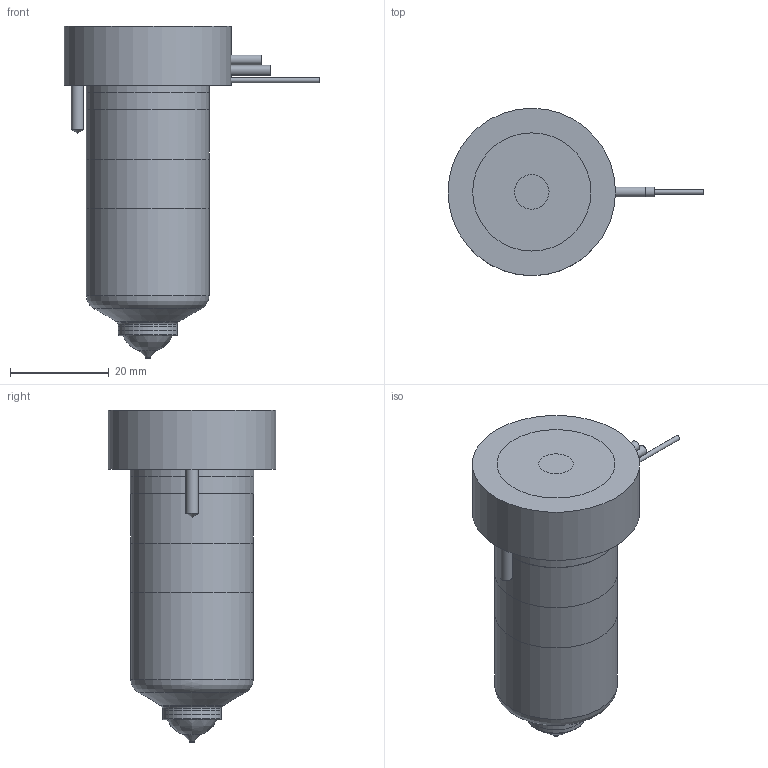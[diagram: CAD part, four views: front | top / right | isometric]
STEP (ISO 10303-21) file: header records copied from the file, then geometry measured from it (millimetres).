
FILE_DESCRIPTION(/* description */ (''),/* implementation_level */ '2;1');
FILE_NAME(/* name */ 'MXTT-MXIT16055_250C_b',/* time_stamp */ '2007-01-18T09:52:09+13:00',/* author */ (''),/* organization */ (''),/* preprocessor_version */ 'ST-DEVELOPER v9',/* originating_system */ 'UGS - NX 4.0',/* authorisation */ '');
FILE_SCHEMA (('CONFIG_CONTROL_DESIGN'));
Length unit declared in the file: millimetre
Products named in the file (1): MXTT-MXIT16055_250C_b
Bounding box: 51.95 x 34 x 67.38 mm (x, y, z)
Volume: 62196.4 mm3; surface area: 15133.3 mm2
Topology: 7 solids, 7 shells, 83 faces, 158 edges, 101 vertices
Faces by surface type: plane 35, cylinder 27, cone 11, torus 8, bspline 2
Full cylindrical faces by diameter (mm): 1 x4, 2 x2, 2.5 x2, 7 x1, 11.61 x1, 12.01 x2, 14.8 x1, 20.8 x1, 24.9 x2, 25 x2, 34 x1
Entity records: 2005 total; most frequent: CARTESIAN_POINT 414, DIRECTION 340, ORIENTED_EDGE 222, AXIS2_PLACEMENT_3D 157, EDGE_LOOP 132, EDGE_CURVE 111, VERTEX_POINT 92, ADVANCED_FACE 83
